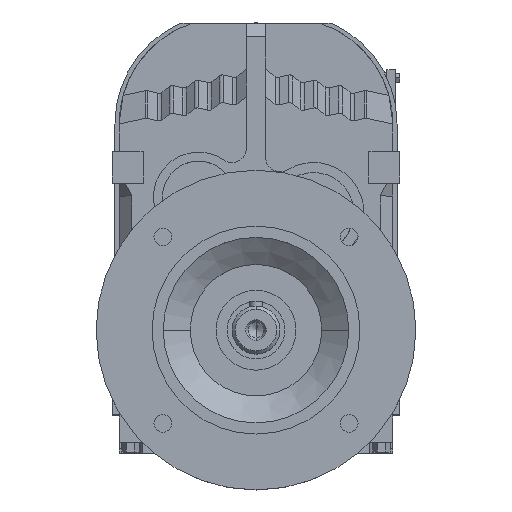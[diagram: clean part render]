
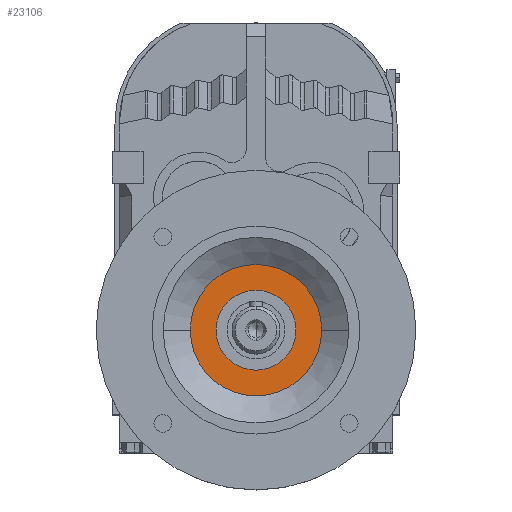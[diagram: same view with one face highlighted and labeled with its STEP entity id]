
A CAD part, top view. The second image highlights one B-rep face of the part: STEP entity #23106.
In plain terms, the highlighted planar face has unit normal (0, 0, 1).
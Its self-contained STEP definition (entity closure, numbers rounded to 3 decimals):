
#16947 = CYLINDRICAL_SURFACE('',#16948,41.1);
#16948 = AXIS2_PLACEMENT_3D('',#16949,#16950,#16951);
#16949 = CARTESIAN_POINT('',(0.,-128.1,110.123));
#16950 = DIRECTION('',(0.,0.,1.));
#16951 = DIRECTION('',(1.,0.,0.));
#16973 = CYLINDRICAL_SURFACE('',#16974,41.1);
#16974 = AXIS2_PLACEMENT_3D('',#16975,#16976,#16977);
#16975 = CARTESIAN_POINT('',(0.,-128.1,110.123));
#16976 = DIRECTION('',(0.,0.,1.));
#16977 = DIRECTION('',(1.,0.,0.));
#21843 = VERTEX_POINT('',#21844);
#21844 = CARTESIAN_POINT('',(-41.1,-128.1,128.5));
#21865 = VERTEX_POINT('',#21866);
#21866 = CARTESIAN_POINT('',(41.1,-128.1,128.5));
#21885 = EDGE_CURVE('',#21865,#21843,#21886,.T.);
#21886 = SURFACE_CURVE('',#21887,(#21892,#21898),.PCURVE_S1.);
#21887 = CIRCLE('',#21888,41.1);
#21888 = AXIS2_PLACEMENT_3D('',#21889,#21890,#21891);
#21889 = CARTESIAN_POINT('',(0.,-128.1,128.5));
#21890 = DIRECTION('',(0.,0.,1.));
#21891 = DIRECTION('',(1.,0.,0.));
#21892 = PCURVE('',#16947,#21893);
#21893 = DEFINITIONAL_REPRESENTATION('',(#21894),#21897);
#21894 = B_SPLINE_CURVE_WITH_KNOTS('',1,(#21895,#21896),.UNSPECIFIED.,
  .F.,.F.,(2,2),(0.,3.142),.PIECEWISE_BEZIER_KNOTS.);
#21895 = CARTESIAN_POINT('',(0.,18.377));
#21896 = CARTESIAN_POINT('',(3.142,18.377));
#21897 = ( GEOMETRIC_REPRESENTATION_CONTEXT(2) 
PARAMETRIC_REPRESENTATION_CONTEXT() REPRESENTATION_CONTEXT('2D SPACE',''
  ) );
#21898 = PCURVE('',#21899,#21904);
#21899 = PLANE('',#21900);
#21900 = AXIS2_PLACEMENT_3D('',#21901,#21902,#21903);
#21901 = CARTESIAN_POINT('',(0.,-87.,128.5));
#21902 = DIRECTION('',(0.,0.,1.));
#21903 = DIRECTION('',(1.,0.,0.));
#21904 = DEFINITIONAL_REPRESENTATION('',(#21905),#21909);
#21905 = CIRCLE('',#21906,41.1);
#21906 = AXIS2_PLACEMENT_2D('',#21907,#21908);
#21907 = CARTESIAN_POINT('',(0.,-41.1));
#21908 = DIRECTION('',(1.,0.));
#21909 = ( GEOMETRIC_REPRESENTATION_CONTEXT(2) 
PARAMETRIC_REPRESENTATION_CONTEXT() REPRESENTATION_CONTEXT('2D SPACE',''
  ) );
#22013 = EDGE_CURVE('',#21843,#21865,#22014,.T.);
#22014 = SURFACE_CURVE('',#22015,(#22020,#22026),.PCURVE_S1.);
#22015 = CIRCLE('',#22016,41.1);
#22016 = AXIS2_PLACEMENT_3D('',#22017,#22018,#22019);
#22017 = CARTESIAN_POINT('',(0.,-128.1,128.5));
#22018 = DIRECTION('',(0.,0.,1.));
#22019 = DIRECTION('',(1.,0.,0.));
#22020 = PCURVE('',#16973,#22021);
#22021 = DEFINITIONAL_REPRESENTATION('',(#22022),#22025);
#22022 = B_SPLINE_CURVE_WITH_KNOTS('',1,(#22023,#22024),.UNSPECIFIED.,
  .F.,.F.,(2,2),(3.142,6.283),.PIECEWISE_BEZIER_KNOTS.);
#22023 = CARTESIAN_POINT('',(3.142,18.377));
#22024 = CARTESIAN_POINT('',(6.283,18.377));
#22025 = ( GEOMETRIC_REPRESENTATION_CONTEXT(2) 
PARAMETRIC_REPRESENTATION_CONTEXT() REPRESENTATION_CONTEXT('2D SPACE',''
  ) );
#22026 = PCURVE('',#21899,#22027);
#22027 = DEFINITIONAL_REPRESENTATION('',(#22028),#22032);
#22028 = CIRCLE('',#22029,41.1);
#22029 = AXIS2_PLACEMENT_2D('',#22030,#22031);
#22030 = CARTESIAN_POINT('',(0.,-41.1));
#22031 = DIRECTION('',(1.,0.));
#22032 = ( GEOMETRIC_REPRESENTATION_CONTEXT(2) 
PARAMETRIC_REPRESENTATION_CONTEXT() REPRESENTATION_CONTEXT('2D SPACE',''
  ) );
#23106 = ADVANCED_FACE('',(#23107,#23111),#21899,.T.);
#23107 = FACE_BOUND('',#23108,.T.);
#23108 = EDGE_LOOP('',(#23109,#23110));
#23109 = ORIENTED_EDGE('',*,*,#21885,.T.);
#23110 = ORIENTED_EDGE('',*,*,#22013,.T.);
#23111 = FACE_BOUND('',#23112,.T.);
#23112 = EDGE_LOOP('',(#23113,#23143));
#23113 = ORIENTED_EDGE('',*,*,#23114,.F.);
#23114 = EDGE_CURVE('',#23115,#23117,#23119,.T.);
#23115 = VERTEX_POINT('',#23116);
#23116 = CARTESIAN_POINT('',(25.,-128.1,128.5));
#23117 = VERTEX_POINT('',#23118);
#23118 = CARTESIAN_POINT('',(-25.,-128.1,128.5));
#23119 = SURFACE_CURVE('',#23120,(#23125,#23132),.PCURVE_S1.);
#23120 = CIRCLE('',#23121,25.);
#23121 = AXIS2_PLACEMENT_3D('',#23122,#23123,#23124);
#23122 = CARTESIAN_POINT('',(0.,-128.1,128.5));
#23123 = DIRECTION('',(0.,0.,1.));
#23124 = DIRECTION('',(1.,0.,0.));
#23125 = PCURVE('',#21899,#23126);
#23126 = DEFINITIONAL_REPRESENTATION('',(#23127),#23131);
#23127 = CIRCLE('',#23128,25.);
#23128 = AXIS2_PLACEMENT_2D('',#23129,#23130);
#23129 = CARTESIAN_POINT('',(0.,-41.1));
#23130 = DIRECTION('',(1.,0.));
#23131 = ( GEOMETRIC_REPRESENTATION_CONTEXT(2) 
PARAMETRIC_REPRESENTATION_CONTEXT() REPRESENTATION_CONTEXT('2D SPACE',''
  ) );
#23132 = PCURVE('',#23133,#23138);
#23133 = CYLINDRICAL_SURFACE('',#23134,25.);
#23134 = AXIS2_PLACEMENT_3D('',#23135,#23136,#23137);
#23135 = CARTESIAN_POINT('',(0.,-128.1,110.123));
#23136 = DIRECTION('',(0.,0.,1.));
#23137 = DIRECTION('',(1.,0.,0.));
#23138 = DEFINITIONAL_REPRESENTATION('',(#23139),#23142);
#23139 = B_SPLINE_CURVE_WITH_KNOTS('',1,(#23140,#23141),.UNSPECIFIED.,
  .F.,.F.,(2,2),(0.,3.142),.PIECEWISE_BEZIER_KNOTS.);
#23140 = CARTESIAN_POINT('',(0.,18.377));
#23141 = CARTESIAN_POINT('',(3.142,18.377));
#23142 = ( GEOMETRIC_REPRESENTATION_CONTEXT(2) 
PARAMETRIC_REPRESENTATION_CONTEXT() REPRESENTATION_CONTEXT('2D SPACE',''
  ) );
#23143 = ORIENTED_EDGE('',*,*,#23144,.F.);
#23144 = EDGE_CURVE('',#23117,#23115,#23145,.T.);
#23145 = SURFACE_CURVE('',#23146,(#23151,#23158),.PCURVE_S1.);
#23146 = CIRCLE('',#23147,25.);
#23147 = AXIS2_PLACEMENT_3D('',#23148,#23149,#23150);
#23148 = CARTESIAN_POINT('',(0.,-128.1,128.5));
#23149 = DIRECTION('',(0.,0.,1.));
#23150 = DIRECTION('',(1.,0.,0.));
#23151 = PCURVE('',#21899,#23152);
#23152 = DEFINITIONAL_REPRESENTATION('',(#23153),#23157);
#23153 = CIRCLE('',#23154,25.);
#23154 = AXIS2_PLACEMENT_2D('',#23155,#23156);
#23155 = CARTESIAN_POINT('',(0.,-41.1));
#23156 = DIRECTION('',(1.,0.));
#23157 = ( GEOMETRIC_REPRESENTATION_CONTEXT(2) 
PARAMETRIC_REPRESENTATION_CONTEXT() REPRESENTATION_CONTEXT('2D SPACE',''
  ) );
#23158 = PCURVE('',#23159,#23164);
#23159 = CYLINDRICAL_SURFACE('',#23160,25.);
#23160 = AXIS2_PLACEMENT_3D('',#23161,#23162,#23163);
#23161 = CARTESIAN_POINT('',(0.,-128.1,110.123));
#23162 = DIRECTION('',(0.,0.,1.));
#23163 = DIRECTION('',(1.,0.,0.));
#23164 = DEFINITIONAL_REPRESENTATION('',(#23165),#23168);
#23165 = B_SPLINE_CURVE_WITH_KNOTS('',1,(#23166,#23167),.UNSPECIFIED.,
  .F.,.F.,(2,2),(3.142,6.283),.PIECEWISE_BEZIER_KNOTS.);
#23166 = CARTESIAN_POINT('',(3.142,18.377));
#23167 = CARTESIAN_POINT('',(6.283,18.377));
#23168 = ( GEOMETRIC_REPRESENTATION_CONTEXT(2) 
PARAMETRIC_REPRESENTATION_CONTEXT() REPRESENTATION_CONTEXT('2D SPACE',''
  ) );
